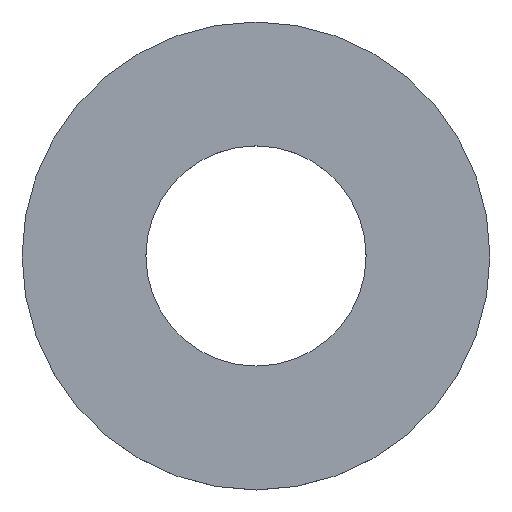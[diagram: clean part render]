
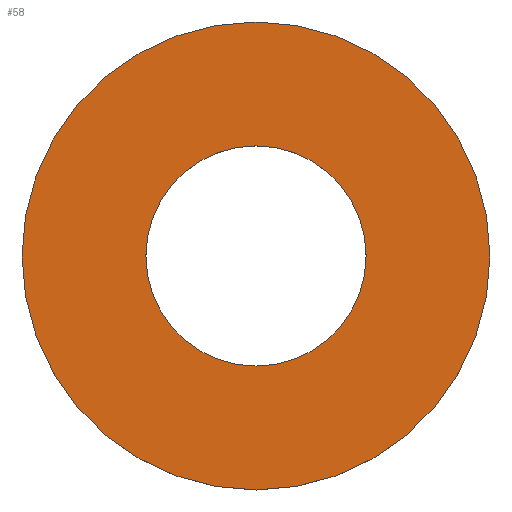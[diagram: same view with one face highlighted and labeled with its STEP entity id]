
A CAD part, top view. The second image highlights one B-rep face of the part: STEP entity #58.
In plain terms, the highlighted planar face has unit normal (0, 0, 1).
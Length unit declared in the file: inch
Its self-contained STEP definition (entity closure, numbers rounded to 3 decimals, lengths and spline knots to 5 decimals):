
#16=PLANE('',#68);
#20=FACE_BOUND('',#32,.T.);
#24=FACE_OUTER_BOUND('',#31,.T.);
#31=EDGE_LOOP('',(#51));
#32=EDGE_LOOP('',(#52));
#33=CIRCLE('',#62,1.);
#35=CIRCLE('',#65,2.125);
#37=VERTEX_POINT('',#89);
#39=VERTEX_POINT('',#94);
#41=EDGE_CURVE('',#37,#37,#33,.T.);
#43=EDGE_CURVE('',#39,#39,#35,.T.);
#51=ORIENTED_EDGE('',*,*,#43,.T.);
#52=ORIENTED_EDGE('',*,*,#41,.T.);
#58=ADVANCED_FACE('',(#24,#20),#16,.T.);
#62=AXIS2_PLACEMENT_3D('',#90,#73,#74);
#65=AXIS2_PLACEMENT_3D('',#95,#79,#80);
#68=AXIS2_PLACEMENT_3D('',#99,#85,#86);
#73=DIRECTION('center_axis',(0.,0.,-1.));
#74=DIRECTION('ref_axis',(-1.,0.,0.));
#79=DIRECTION('center_axis',(0.,0.,1.));
#80=DIRECTION('ref_axis',(-1.,0.,0.));
#85=DIRECTION('center_axis',(0.,0.,1.));
#86=DIRECTION('ref_axis',(1.,0.,0.));
#89=CARTESIAN_POINT('',(1.,0.,0.25));
#90=CARTESIAN_POINT('Origin',(0.,0.,0.25));
#94=CARTESIAN_POINT('',(2.125,0.,0.25));
#95=CARTESIAN_POINT('Origin',(0.,0.,0.25));
#99=CARTESIAN_POINT('Origin',(0.,0.,
0.25));
